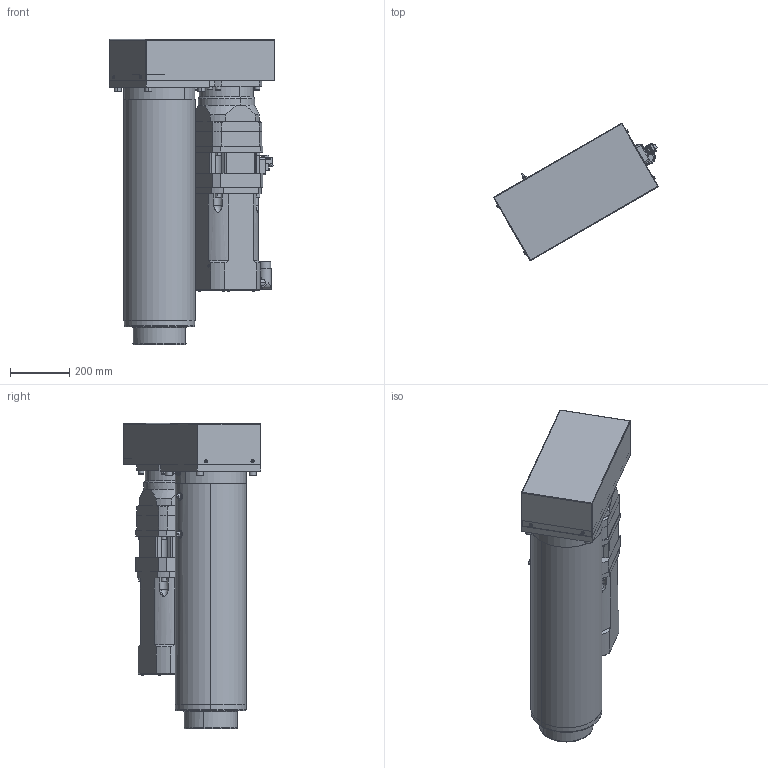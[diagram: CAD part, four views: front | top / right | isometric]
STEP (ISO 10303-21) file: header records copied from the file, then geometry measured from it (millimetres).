
FILE_DESCRIPTION (( 'STEP AP203' ), '1' );
FILE_NAME ('LN5P2000-035-010S.STEP', '2016-06-21T13:17:29', ( 'paulsen' ), ( '' ), 'SwSTEP 2.0', 'SolidWorks 2013', '' );
FILE_SCHEMA (( 'CONFIG_CONTROL_DESIGN' ));
Length unit declared in the file: millimetre
Products named in the file (1): LN5P2000-035-010S
Bounding box: 555.11 x 462.51 x 1026.5 mm (x, y, z)
Surface area: 4047571.9 mm2 (no closed solid volume)
Topology: 0 solids, 53 shells, 1915 faces, 4499 edges, 2726 vertices
Faces by surface type: plane 821, cylinder 706, cone 300, torus 78, bspline 10
Entity records: 55679 total; most frequent: CARTESIAN_POINT 11342, DIRECTION 9788, ORIENTED_EDGE 8638, EDGE_CURVE 4325, AXIS2_PLACEMENT_3D 3733, VERTEX_POINT 2726, LINE 2322, VECTOR 2322
